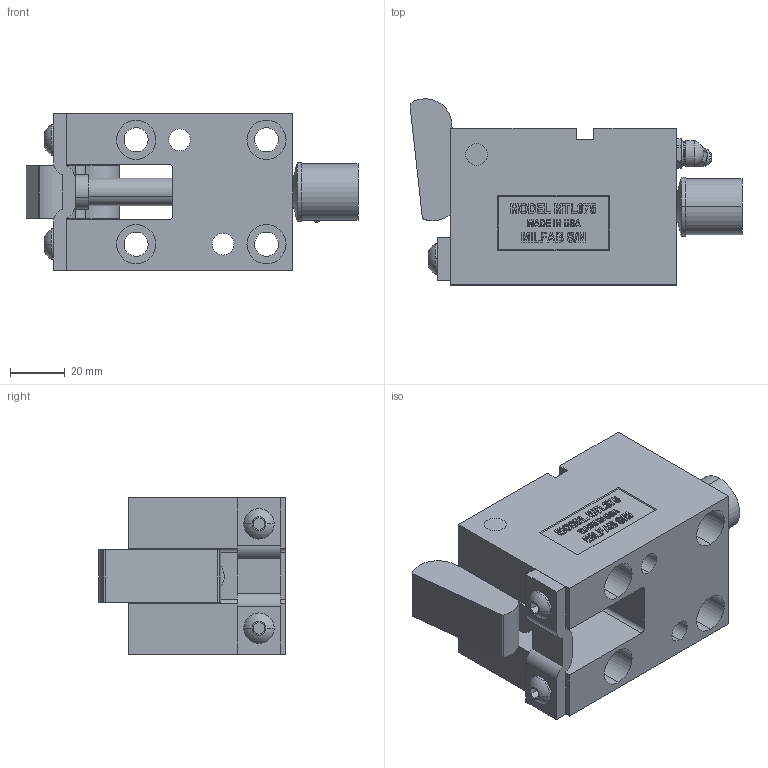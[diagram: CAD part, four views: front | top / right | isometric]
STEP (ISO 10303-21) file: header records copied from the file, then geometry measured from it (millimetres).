
FILE_DESCRIPTION (( 'STEP AP214' ), '1' );
FILE_NAME ('MTL375-O.STEP', '2014-01-06T23:07:17', ( 'user' ), ( '' ), 'SwSTEP 2.0', 'SolidWorks 2009', '' );
FILE_SCHEMA (( 'AUTOMOTIVE_DESIGN' ));
Length unit declared in the file: inch
Products named in the file (11): 375-TRIGGER; 375 PIVOT PIN; MTL375-O; ML375-PUNCH; GREASE ZERK; 375-I-STRAP; 375 STRIPPER OPEN; 1-4 SCREW; 375-WASHER; M-I-375-POINT; MTL375-BODY
Assembly tree (11 placements, depth 2):
  MTL375-O
    1-4 SCREW  x2
    ML375-PUNCH
    GREASE ZERK
    375-WASHER
    375-TRIGGER
    MTL375-BODY
    375 STRIPPER OPEN
    375 PIVOT PIN
    375-I-STRAP
    M-I-375-POINT
Bounding box: 121.26 x 67.97 x 57.15 mm (x, y, z)
Volume: 223127.2 mm3; surface area: 58958.8 mm2
Topology: 11 solids, 11 shells, 596 faces, 1541 edges, 1012 vertices
Faces by surface type: plane 355, cylinder 101, bspline 86, cone 30, torus 20, sphere 4
Entity records: 22950 total; most frequent: CARTESIAN_POINT 8820, ORIENTED_EDGE 2994, DIRECTION 2485, EDGE_CURVE 1497, VECTOR 1005, LINE 1005, VERTEX_POINT 986, AXIS2_PLACEMENT_3D 740
